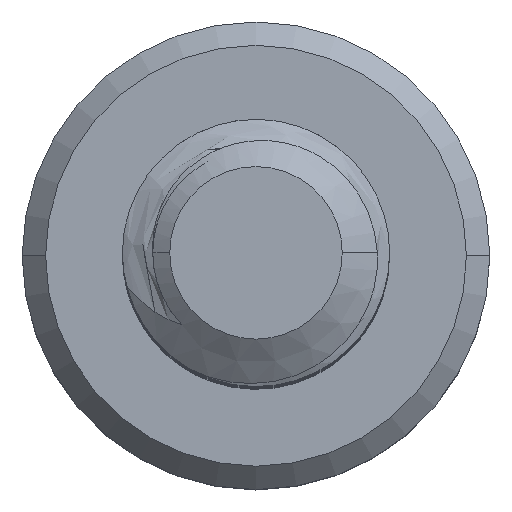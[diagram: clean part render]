
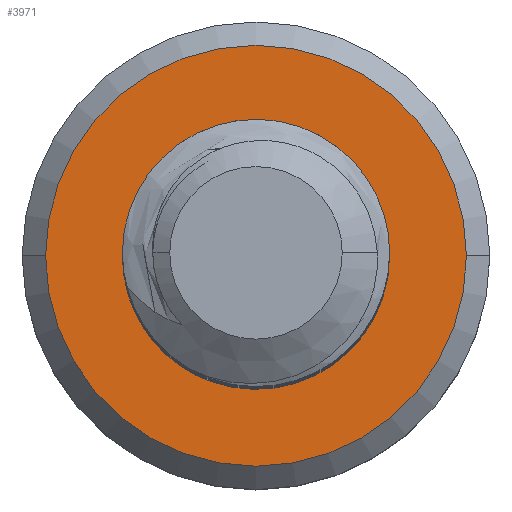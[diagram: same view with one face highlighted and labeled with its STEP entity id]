
A CAD part, top view. The second image highlights one B-rep face of the part: STEP entity #3971.
In plain terms, the highlighted planar face has unit normal (0, 0, 1).
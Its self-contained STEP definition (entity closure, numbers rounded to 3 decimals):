
#21 = CARTESIAN_POINT ( 'NONE',  ( -1.728, 0.751, -25. ) ) ;
#81 = CARTESIAN_POINT ( 'NONE',  ( 1.576, -0.529, -25. ) ) ;
#122 = AXIS2_PLACEMENT_3D ( 'NONE', #5274, #1793, #6013 ) ;
#168 = CARTESIAN_POINT ( 'NONE',  ( -0.396, -1.896, -25. ) ) ;
#296 = EDGE_LOOP ( 'NONE', ( #8944, #7542 ) ) ;
#342 = DIRECTION ( 'NONE',  ( -1., 0., 0. ) ) ;
#475 = FACE_BOUND ( 'NONE', #726, .T. ) ;
#534 = EDGE_CURVE ( 'NONE', #5419, #4903, #3803, .T. ) ;
#555 = CARTESIAN_POINT ( 'NONE',  ( -1.954, -0.429, -25. ) ) ;
#722 = CARTESIAN_POINT ( 'NONE',  ( 0.531, 1.509, -25. ) ) ;
#726 = EDGE_LOOP ( 'NONE', ( #2882, #8340, #8557, #8554 ) ) ;
#808 = CARTESIAN_POINT ( 'NONE',  ( -1.971, -0.08, -25. ) ) ;
#994 = CIRCLE ( 'NONE', #122, 3.15 ) ;
#1053 = CARTESIAN_POINT ( 'NONE',  ( 1.509, 0.331, -25. ) ) ;
#1133 = AXIS2_PLACEMENT_3D ( 'NONE', #5936, #4502, #342 ) ;
#1408 = CARTESIAN_POINT ( 'NONE',  ( 0.3, -1.847, -25. ) ) ;
#1443 = CARTESIAN_POINT ( 'NONE',  ( 1.599, -0.006, -25. ) ) ;
#1445 = CARTESIAN_POINT ( 'NONE',  ( -0.829, 1.549, -25. ) ) ;
#1478 = CARTESIAN_POINT ( 'NONE',  ( 0.202, 1.629, -25. ) ) ;
#1501 = CARTESIAN_POINT ( 'NONE',  ( 1.603, -0.357, -25. ) ) ;
#1504 = CARTESIAN_POINT ( 'NONE',  ( -1.919, 0.265, -25. ) ) ;
#1686 = VERTEX_POINT ( 'NONE', #555 ) ;
#1793 = DIRECTION ( 'NONE',  ( 0., 0., 1. ) ) ;
#1836 = CARTESIAN_POINT ( 'NONE',  ( 0., 0., -25. ) ) ;
#2129 = CARTESIAN_POINT ( 'NONE',  ( -0.219, -1.907, -25. ) ) ;
#2156 = CARTESIAN_POINT ( 'NONE',  ( -0.32, 1.667, -25. ) ) ;
#2176 = EDGE_CURVE ( 'NONE', #1686, #4903, #8779, .T. ) ;
#2177 = CARTESIAN_POINT ( 'NONE',  ( 1.385, -1.017, -25. ) ) ;
#2219 = CARTESIAN_POINT ( 'NONE',  ( 0.82, 1.31, -25. ) ) ;
#2250 = CARTESIAN_POINT ( 'NONE',  ( 1.058, -1.427, -25. ) ) ;
#2456 = DIRECTION ( 'NONE',  ( 0., 0., -1. ) ) ;
#2619 = CARTESIAN_POINT ( 'NONE',  ( 0., 0., -25. ) ) ;
#2846 = CARTESIAN_POINT ( 'NONE',  ( 0.684, 1.422, -25. ) ) ;
#2874 = CARTESIAN_POINT ( 'NONE',  ( -1.414, 1.168, -25. ) ) ;
#2877 = CARTESIAN_POINT ( 'NONE',  ( 3.15, 0., -25. ) ) ;
#2882 = ORIENTED_EDGE ( 'NONE', *, *, #2176, .F. ) ;
#2959 = CARTESIAN_POINT ( 'NONE',  ( -1.061, -1.695, -25. ) ) ;
#3006 = CIRCLE ( 'NONE', #1133, 3.15 ) ;
#3022 = CARTESIAN_POINT ( 'NONE',  ( 0.82, 1.31, -25. ) ) ;
#3069 = DIRECTION ( 'NONE',  ( 1., 0., 0. ) ) ;
#3351 = DIRECTION ( 'NONE',  ( 1., 0., 0. ) ) ;
#3462 = CARTESIAN_POINT ( 'NONE',  ( -1.061, -1.695, -25. ) ) ;
#3477 = CARTESIAN_POINT ( 'NONE',  ( 0.78, -1.639, -25. ) ) ;
#3508 = CARTESIAN_POINT ( 'NONE',  ( 1.509, 0.331, -25. ) ) ;
#3510 = FACE_OUTER_BOUND ( 'NONE', #296, .T. ) ;
#3784 = VERTEX_POINT ( 'NONE', #2877 ) ;
#3803 = B_SPLINE_CURVE_WITH_KNOTS ( 'NONE', 3,
 ( #3508, #7059, #1443, #1501, #81, #4226, #2177, #8519, #2250, #3477, #8392, #1408, #6284, #2129, #168, #6425, #4442, #2959 ),
 .UNSPECIFIED., .F., .F.,
 ( 4, 2, 2, 2, 2, 2, 2, 2, 4 ),
 ( 0., 0.001, 0.001, 0.002, 0.002, 0.003, 0.003, 0.004, 0.004 ),
 .UNSPECIFIED. ) ;
#3897 = AXIS2_PLACEMENT_3D ( 'NONE', #1836, #6633, #3069 ) ;
#3971 = ADVANCED_FACE ( 'NONE', ( #3510, #475 ), #6038, .F. ) ;
#4226 = CARTESIAN_POINT ( 'NONE',  ( 1.466, -0.863, -25. ) ) ;
#4442 = CARTESIAN_POINT ( 'NONE',  ( -0.904, -1.773, -25. ) ) ;
#4502 = DIRECTION ( 'NONE',  ( 0., 0., 1. ) ) ;
#4595 = DIRECTION ( 'NONE',  ( -1., 0., 0. ) ) ;
#4755 = EDGE_CURVE ( 'NONE', #6480, #5419, #5351, .T. ) ;
#4790 = CARTESIAN_POINT ( 'NONE',  ( -1.954, -0.429, -25. ) ) ;
#4903 = VERTEX_POINT ( 'NONE', #3462 ) ;
#5274 = CARTESIAN_POINT ( 'NONE',  ( 0., 0., -25. ) ) ;
#5351 = CIRCLE ( 'NONE', #6004, 1.545 ) ;
#5419 = VERTEX_POINT ( 'NONE', #1053 ) ;
#5554 = EDGE_CURVE ( 'NONE', #7998, #3784, #994, .T. ) ;
#5603 = CARTESIAN_POINT ( 'NONE',  ( -0.989, 1.476, -25. ) ) ;
#5842 = B_SPLINE_CURVE_WITH_KNOTS ( 'NONE', 3,
 ( #4790, #7806, #808, #1504, #6286, #21, #7035, #2874, #6374, #5603, #1445, #6309, #2156, #7062, #1478, #722, #2846, #2219 ),
 .UNSPECIFIED., .F., .F.,
 ( 4, 2, 2, 2, 2, 2, 2, 2, 4 ),
 ( 0., 0.001, 0.001, 0.002, 0.002, 0.003, 0.003, 0.004, 0.004 ),
 .UNSPECIFIED. ) ;
#5936 = CARTESIAN_POINT ( 'NONE',  ( 0., 0., -25. ) ) ;
#6004 = AXIS2_PLACEMENT_3D ( 'NONE', #2619, #8872, #3351 ) ;
#6013 = DIRECTION ( 'NONE',  ( -1., 0., 0. ) ) ;
#6038 = PLANE ( 'NONE',  #7013 ) ;
#6284 = CARTESIAN_POINT ( 'NONE',  ( 0.127, -1.884, -25. ) ) ;
#6286 = CARTESIAN_POINT ( 'NONE',  ( -1.869, 0.434, -25. ) ) ;
#6309 = CARTESIAN_POINT ( 'NONE',  ( -0.493, 1.645, -25. ) ) ;
#6374 = CARTESIAN_POINT ( 'NONE',  ( -1.281, 1.286, -25. ) ) ;
#6425 = CARTESIAN_POINT ( 'NONE',  ( -0.737, -1.829, -25. ) ) ;
#6480 = VERTEX_POINT ( 'NONE', #3022 ) ;
#6581 = EDGE_CURVE ( 'NONE', #3784, #7998, #3006, .T. ) ;
#6633 = DIRECTION ( 'NONE',  ( 0., 0., 1. ) ) ;
#6751 = CARTESIAN_POINT ( 'NONE',  ( 0., 0., -25. ) ) ;
#7013 = AXIS2_PLACEMENT_3D ( 'NONE', #6751, #2456, #4595 ) ;
#7035 = CARTESIAN_POINT ( 'NONE',  ( -1.635, 0.902, -25. ) ) ;
#7059 = CARTESIAN_POINT ( 'NONE',  ( 1.569, 0.165, -25. ) ) ;
#7062 = CARTESIAN_POINT ( 'NONE',  ( 0.031, 1.659, -25. ) ) ;
#7542 = ORIENTED_EDGE ( 'NONE', *, *, #6581, .T. ) ;
#7806 = CARTESIAN_POINT ( 'NONE',  ( -1.974, -0.254, -25. ) ) ;
#7998 = VERTEX_POINT ( 'NONE', #8294 ) ;
#8294 = CARTESIAN_POINT ( 'NONE',  ( -3.15, 0., -25. ) ) ;
#8340 = ORIENTED_EDGE ( 'NONE', *, *, #8495, .T. ) ;
#8392 = CARTESIAN_POINT ( 'NONE',  ( 0.626, -1.724, -25. ) ) ;
#8495 = EDGE_CURVE ( 'NONE', #1686, #6480, #5842, .T. ) ;
#8519 = CARTESIAN_POINT ( 'NONE',  ( 1.179, -1.302, -25. ) ) ;
#8554 = ORIENTED_EDGE ( 'NONE', *, *, #534, .T. ) ;
#8557 = ORIENTED_EDGE ( 'NONE', *, *, #4755, .T. ) ;
#8779 = CIRCLE ( 'NONE', #3897, 2. ) ;
#8872 = DIRECTION ( 'NONE',  ( 0., 0., -1. ) ) ;
#8944 = ORIENTED_EDGE ( 'NONE', *, *, #5554, .T. ) ;
